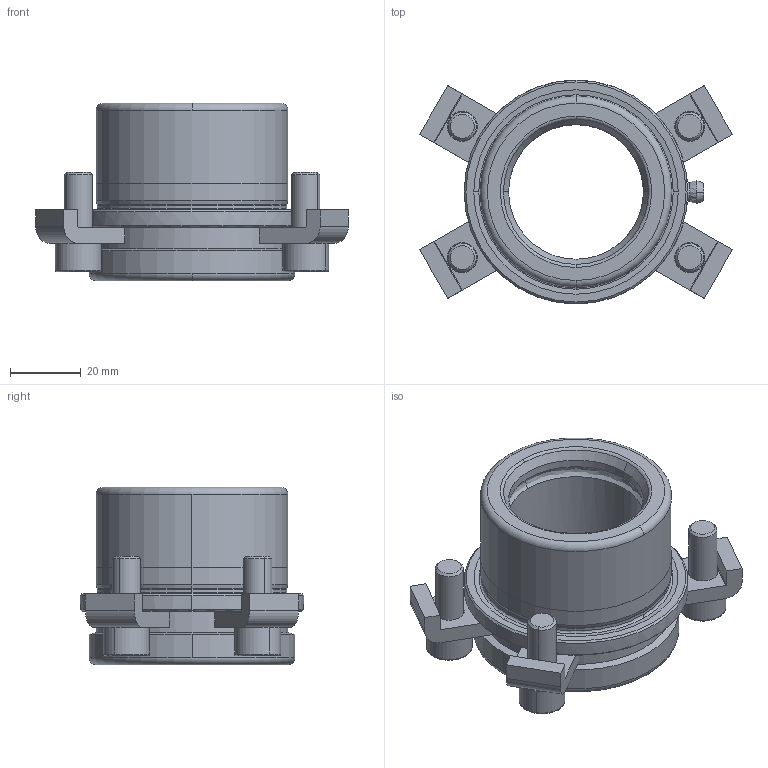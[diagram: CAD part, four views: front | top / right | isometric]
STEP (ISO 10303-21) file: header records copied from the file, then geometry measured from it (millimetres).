
FILE_DESCRIPTION((''),'2;1');
FILE_NAME('B10_038_020.stp','2008-11-06T08:52:32',(''),(''),'Mechanical Desktop 2009','Mechanical Desktop 2009',', , ');
FILE_SCHEMA(('CONFIG_CONTROL_DESIGN'));
Length unit declared in the file: millimetre
Products named in the file (2): Product; blmdl1
Assembly tree (1 placements, depth 2):
  Product
    blmdl1
Bounding box: 88.14 x 63 x 50 mm (x, y, z)
Volume: 76449.7 mm3; surface area: 28380.9 mm2
Topology: 10 solids, 10 shells, 210 faces, 534 edges, 353 vertices
Faces by surface type: plane 91, cylinder 61, cone 22, bspline 18, torus 18
Entity records: 7706 total; most frequent: CARTESIAN_POINT 2390, DIRECTION 1150, ORIENTED_EDGE 1060, EDGE_CURVE 530, AXIS2_PLACEMENT_3D 450, VERTEX_POINT 351, CIRCLE 256, VECTOR 250
